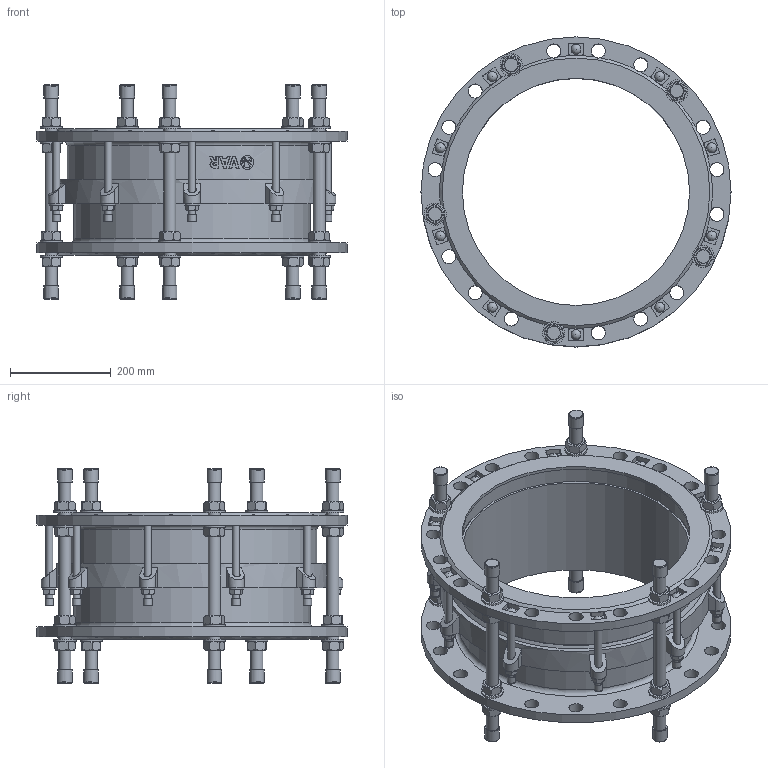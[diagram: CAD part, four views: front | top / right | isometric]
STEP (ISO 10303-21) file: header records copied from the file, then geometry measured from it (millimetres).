
FILE_DESCRIPTION(('STEP AP242'), '1');
FILE_NAME('Ìîíòàæíàÿ âñòàâêà', '', ('UNSPECIFIED'), ('UNSPECIFIED'), 'C3D Converter', 'C3D Toolkit', '');
FILE_SCHEMA(('AP242_MANAGED_MODEL_BASED_3D_ENGINEERING_MIM_LF { 1 0 10303 442 1 1 4 }'));
Length unit declared in the file: millimetre
Products named in the file (13): ШМ.М16.310
Assembly tree (99 placements, depth 2):
  (unnamed)
    (unnamed)
    (unnamed)
    (unnamed)
    (unnamed)  x20
    (unnamed)  x20
    ШМ.М16.310  x5
    (unnamed)  x10
    (unnamed)
    (unnamed)  x10
    (unnamed)  x10
    (unnamed)  x10
    (unnamed)  x10
Bounding box: 614 x 614 x 424.8 mm (x, y, z)
Volume: 12721964.7 mm3; surface area: 2478122.8 mm2
Topology: 99 solids, 99 shells, 1112 faces, 2520 edges, 1601 vertices
Faces by surface type: plane 656, cylinder 267, cone 146, torus 22, extrusion 11, sphere 10
Full cylindrical faces by diameter (mm): 14 x30, 15 x10, 16 x10, 16.8 x10, 24 x35, 25 x20, 27.455 x1, 28 x50, 28.8 x10, 44 x20, 450 x2, 468 x2, 477 x2, 495 x1, 513 x1, 519 x1, 537 x1, 614 x2
Entity records: 24219 total; most frequent: CARTESIAN_POINT 11425, DIRECTION 2122, ORIENTED_EDGE 1926, EDGE_CURVE 963, AXIS2_PLACEMENT_3D 846, VERTEX_POINT 696, EDGE_LOOP 591, FACE_BOUND 449
